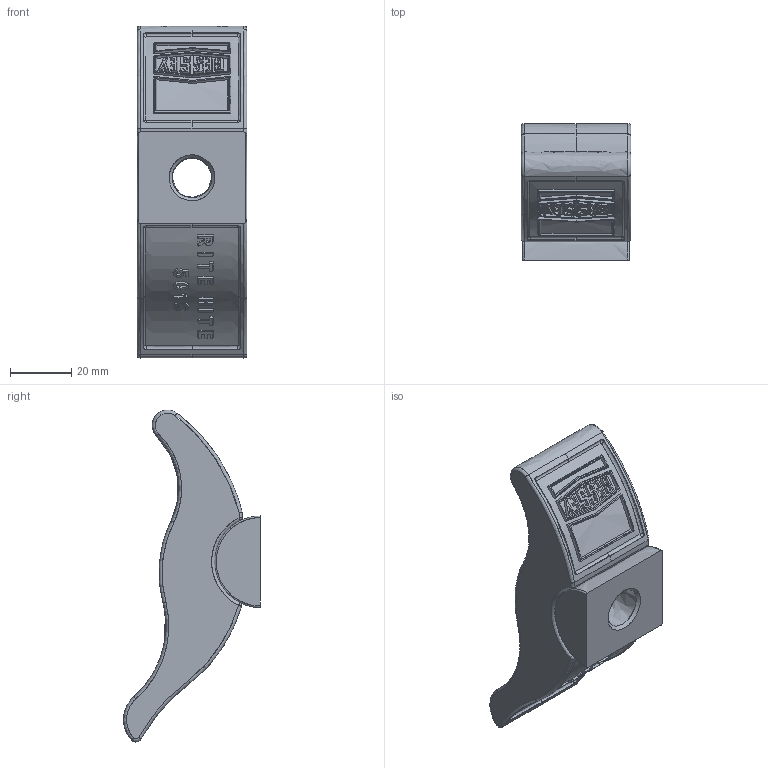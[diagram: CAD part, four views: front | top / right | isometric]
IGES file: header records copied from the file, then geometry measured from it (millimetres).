
Start section: ZWSOFT
Global section: file name: 501S.igs; native system: ZW3D; preprocessor: 1.0; author: ZW3D; organization: ZWSOFT; date: 121122.095707; units: millimetre
Bounding box: 36 x 44.85 x 108.79 mm (x, y, z)
Surface area: 18192.3 mm2 (no closed solid volume)
Topology: 0 solids, 0 shells, 671 faces, 4267 edges, 4767 vertices
Faces by surface type: bspline 671
